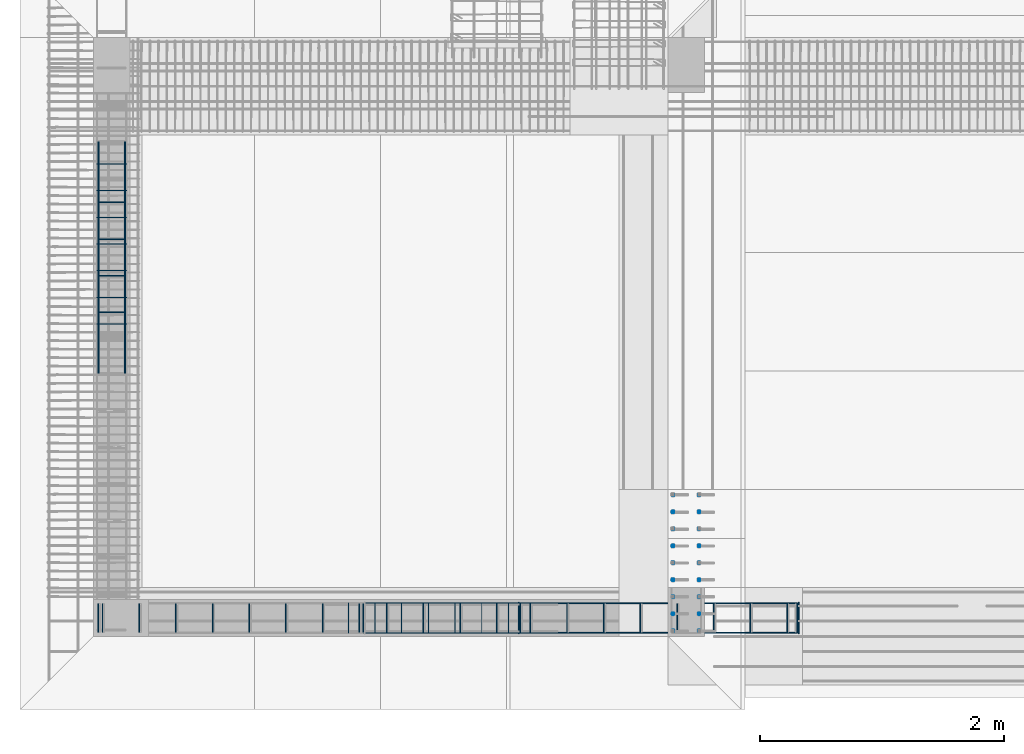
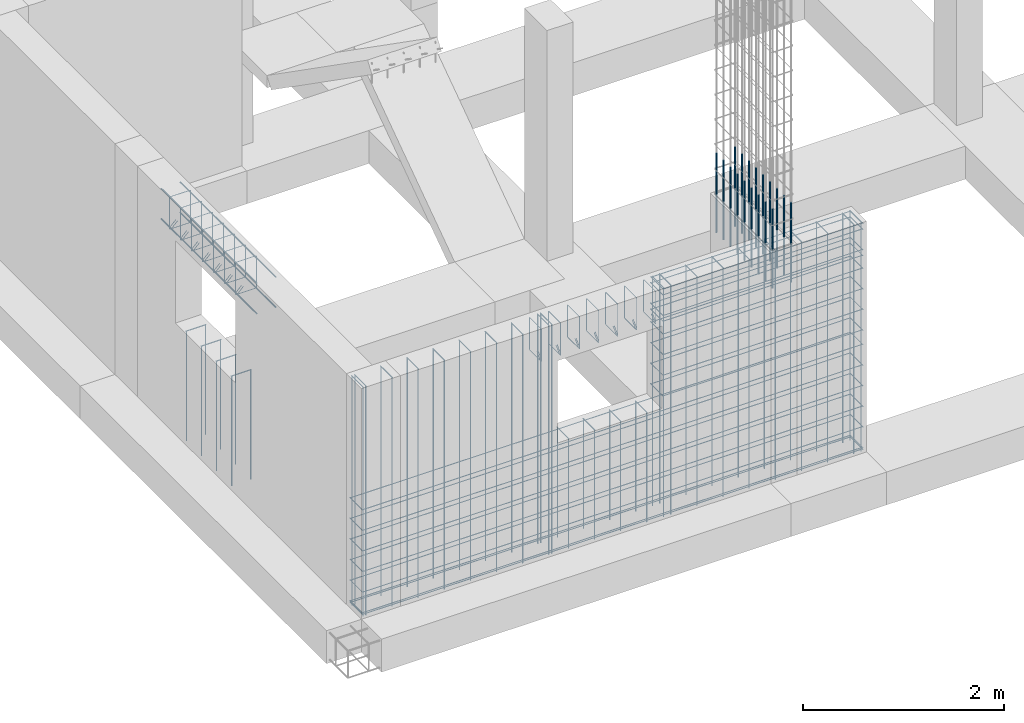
# One storey, part 3 of 15: 9 reinforcing bars.
"""IFC4 building model written with IfcOpenShell, lengths in metres."""

import ifcopenshell
import ifcopenshell.guid

model = None  # the IFC model being written
_history = None  # IfcOwnerHistory: only IFC2X3 demands one
_inside = {}  # id of a spatial element -> (the spatial element, [elements in it])
_under = {}  # id of a project, library or spatial element -> (it, [spatial elements below it])
_declared = {}  # id of a project -> (the project, [libraries it declares])
_typed = {}  # id of a type object -> (the type object, [elements of that type])
_made_of = {}  # id of a material, layer set ... -> (it, [elements and type objects made of it])


def new_model(schema):
    """Start an empty IFC model of exactly this schema.

    Asked for "IFC4X3", IfcOpenShell would pick the latest addendum, in which some entities
    have other attributes; the version numbers below select the first issue.
    IFC2X3 requires an IfcOwnerHistory on every rooted entity: one is made here for all.
    """
    global model, _history
    if schema == "IFC4X3":
        model = ifcopenshell.file(schema_version=(4, 3, 0, 0))
    else:
        model = ifcopenshell.file(schema=schema)
    _inside.clear()
    _under.clear()
    _declared.clear()
    _typed.clear()
    _made_of.clear()
    _history = None
    if model.schema == "IFC2X3":
        org = make("IfcOrganization", Name="unknown")
        user = make(
            "IfcPersonAndOrganization",
            ThePerson=make("IfcPerson", FamilyName="unknown"),
            TheOrganization=org,
        )
        app = make(
            "IfcApplication",
            ApplicationDeveloper=org,
            Version="unknown",
            ApplicationFullName="unknown",
            ApplicationIdentifier="unknown",
        )
        _history = make(
            "IfcOwnerHistory",
            OwningUser=user,
            OwningApplication=app,
            ChangeAction="ADDED",
            CreationDate=0,
        )
    return model


def make(cls, **values):
    """One entity of the class cls with the attributes given. An attribute that is None is left unset."""
    return model.create_entity(
        cls, **{name: value for name, value in values.items() if value is not None}
    )


def entity(cls, *values):
    """Any entity or typed value of the class cls, its attributes in the order of the schema. None: left unset."""
    e = model.create_entity(cls)
    for i, value in enumerate(values):
        if value is not None:
            e[i] = value
    return e


def rooted(cls, **values):
    """An entity with a GlobalId (a new one), such as an element, a storey or a relation."""
    return make(cls, GlobalId=ifcopenshell.guid.new(), OwnerHistory=_history, **values)


def si_unit(unit_type, name, prefix=None):
    """IfcSIUnit, for example si_unit("LENGTHUNIT", "METRE", prefix="MILLI")."""
    return make("IfcSIUnit", UnitType=unit_type, Prefix=prefix, Name=name)


def assignment(units):
    """IfcUnitAssignment: the units of a project."""
    return None if units is None else make("IfcUnitAssignment", Units=units)


def point(xyz):
    """IfcCartesianPoint."""
    return None if xyz is None else make("IfcCartesianPoint", Coordinates=xyz)


def direction(xyz):
    """IfcDirection."""
    return None if xyz is None else make("IfcDirection", DirectionRatios=xyz)


def frame(location, z_axis=None, x_axis=None):
    """IfcAxis2Placement3D, a coordinate frame: its origin and axes. An axis left out is left unset."""
    return make(
        "IfcAxis2Placement3D",
        Location=point(location),
        Axis=direction(z_axis),
        RefDirection=direction(x_axis),
    )


def origin_with_axes():
    """The frame at (0, 0, 0) with the z axis (0, 0, 1) and the x axis (1, 0, 0) written out."""
    return frame((0.0, 0.0, 0.0), z_axis=(0.0, 0.0, 1.0), x_axis=(1.0, 0.0, 0.0))


def place(relative_to, where):
    """IfcLocalPlacement: puts the frame where relative to a parent placement (None: the world)."""
    return make(
        "IfcLocalPlacement", PlacementRelTo=relative_to, RelativePlacement=where
    )


def context(
    kind, dimensions, precision=None, world=None, true_north=None, identifier=None
):
    """IfcGeometricRepresentationContext, for example the 3D "Model" context."""
    return make(
        "IfcGeometricRepresentationContext",
        ContextIdentifier=identifier,
        ContextType=kind,
        CoordinateSpaceDimension=dimensions,
        Precision=precision,
        WorldCoordinateSystem=world,
        TrueNorth=true_north,
    )


def project(units=None, contexts=None):
    """IfcProject with its units and contexts."""
    return rooted(
        "IfcProject",
        Name="project",
        RepresentationContexts=contexts,
        UnitsInContext=assignment(units),
    )


def spatial(cls, under=None, at=None, **own):
    """A site, building, storey or space (cls), placed at a placement, below another one or the project."""
    s = rooted(cls, ObjectPlacement=at, **own)
    if under is not None:
        _under.setdefault(under.id(), (under, []))[1].append(s)
    return s


def shape(context_of_items, identifier, shape_type, items):
    """IfcShapeRepresentation: the items that make up one representation, for example the "Body"."""
    return make(
        "IfcShapeRepresentation",
        ContextOfItems=context_of_items,
        RepresentationIdentifier=identifier,
        RepresentationType=shape_type,
        Items=items,
    )


def source(mapping_origin, context_of_items, identifier, shape_type, items):
    """IfcRepresentationMap: a shape defined once, which mapped items show again and again."""
    return make(
        "IfcRepresentationMap",
        MappingOrigin=mapping_origin,
        MappedRepresentation=shape(context_of_items, identifier, shape_type, items),
    )


def transform(
    local_origin,
    x_axis=None,
    y_axis=None,
    z_axis=None,
    scale=None,
    scale2=None,
    scale3=None,
    uniform=True,
):
    """IfcCartesianTransformationOperator3D, or its non-uniform kind. x_axis, y_axis, z_axis: its Axis1, 2, 3."""
    if uniform:
        return make(
            "IfcCartesianTransformationOperator3D",
            Axis1=direction(x_axis),
            Axis2=direction(y_axis),
            LocalOrigin=point(local_origin),
            Scale=scale,
            Axis3=direction(z_axis),
        )
    return make(
        "IfcCartesianTransformationOperator3DnonUniform",
        Axis1=direction(x_axis),
        Axis2=direction(y_axis),
        LocalOrigin=point(local_origin),
        Scale=scale,
        Axis3=direction(z_axis),
        Scale2=scale2,
        Scale3=scale3,
    )


def mapped(mapping_source, mapping_target):
    """IfcMappedItem: shows the shape of a source again, moved by a transform."""
    return make(
        "IfcMappedItem", MappingSource=mapping_source, MappingTarget=mapping_target
    )


def made_of(thing, what):
    """Note that an element or type object is made of a material, layer set ...; save() writes the relation."""
    if what is not None:
        _made_of.setdefault(what.id(), (what, []))[1].append(thing)
    return thing


def element(
    cls,
    number,
    at=None,
    inside=None,
    cuts=None,
    type_object=None,
    material=None,
    context=None,
    identifier="Body",
    shape_type=None,
    held_by="IfcProductDefinitionShape",
    body=None,
    shapes=None,
    **own,
):
    """One element of the class cls, such as IfcWall. Its Tag is "e" and its number.

    at: its placement. inside: the storey or other place that contains it. cuts: it is an
    opening in that element (IfcRelVoidsElement). A single representation is given by context,
    identifier, shape_type and body (its items); several are given by shapes. held_by: the class
    of the entity that holds the representations. save() writes the other relations.
    """
    e = rooted(cls, Tag="e%d" % number, ObjectPlacement=at, **own)
    if body is not None:
        shapes = [shape(context, identifier, shape_type, body)]
    if shapes is not None:
        e.Representation = make(held_by, Representations=shapes)
    if inside is not None:
        _inside.setdefault(inside.id(), (inside, []))[1].append(e)
    if cuts is not None:
        rooted(
            "IfcRelVoidsElement", RelatingBuildingElement=cuts, RelatedOpeningElement=e
        )
    if type_object is not None:
        _typed.setdefault(type_object.id(), (type_object, []))[1].append(e)
    return made_of(e, material)


def aggregate(whole, parts):
    """IfcRelAggregates: a whole, such as a stair, and the parts it consists of."""
    return rooted("IfcRelAggregates", RelatingObject=whole, RelatedObjects=parts)


def save(model, path):
    """Write the relations noted so far, then the file.

    IfcRelAggregates (storeys below a building ...), IfcRelContainedInSpatialStructure (elements
    in a storey), IfcRelDefinesByType, IfcRelAssociatesMaterial and IfcRelDeclares: one each for
    every whole, place, type object, material and project.
    """
    for whole, parts in _under.values():
        aggregate(whole, parts)
    for where, things in _inside.values():
        rooted(
            "IfcRelContainedInSpatialStructure",
            RelatedElements=things,
            RelatingStructure=where,
        )
    for kind, things in _typed.values():
        rooted("IfcRelDefinesByType", RelatedObjects=things, RelatingType=kind)
    for what, things in _made_of.values():
        rooted("IfcRelAssociatesMaterial", RelatedObjects=things, RelatingMaterial=what)
    for by, libraries in _declared.values():
        rooted("IfcRelDeclares", RelatingContext=by, RelatedDefinitions=libraries)
    model.write(path)


model = new_model("IFC4")

# Units and contexts
model_context = context("Model", 3, precision=1e-05, world=origin_with_axes())
ifc_project = project(units=[si_unit("LENGTHUNIT", "METRE"), si_unit("AREAUNIT", "SQUARE_METRE"), si_unit("VOLUMEUNIT", "CUBIC_METRE"), si_unit("MASSUNIT", "GRAM", prefix="KILO"), si_unit("TIMEUNIT", "SECOND"), si_unit("PLANEANGLEUNIT", "RADIAN"), si_unit("SOLIDANGLEUNIT", "STERADIAN"), si_unit("THERMODYNAMICTEMPERATUREUNIT", "DEGREE_CELSIUS")], contexts=[model_context])

# Site, building, storey
placement_1 = place(None, origin_with_axes())
site = spatial("IfcSite", under=ifc_project, at=placement_1, Name="Italia", CompositionType="ELEMENT")
building = spatial("IfcBuilding", under=site, at=placement_1, Name="Bifamiliare", CompositionType="ELEMENT")
storey = spatial("IfcBuildingStorey", under=building, at=placement_1, Name="Storey 0", CompositionType="ELEMENT", Elevation=0.0)

# Reinforcing bars
shared_shape_1 = source(origin_with_axes(), model_context, "Body", "AdvancedSweptSolid", [
    entity("IfcSweptDiskSolid", entity("IfcIndexedPolyCurve", entity("IfcCartesianPointList3D", [[6.057, 2.557, 2.33333], [6.057, 2.557, 3.3]]), [entity("IfcLineIndex", [1, 2])], False), 0.01),
])
placement_2 = place(placement_1, origin_with_axes())
reinforcing_bar_1_placement = place(placement_2, origin_with_axes())
element("IfcReinforcingBar", 1, at=reinforcing_bar_1_placement, inside=storey, BarLength=0.966667, CrossSectionArea=0.00031416, NominalDiameter=0.02, context=model_context, shape_type="MappedRepresentation", body=[
    mapped(shared_shape_1, transform((0.0, -1.114, 0.0), x_axis=(1.0, 0.0, 0.0), y_axis=(0.0, 1.0, 0.0), z_axis=(0.0, 0.0, 1.0), scale=1.0)),
    mapped(shared_shape_1, transform((0.0, -0.97325, 0.0), x_axis=(1.0, 0.0, 0.0), y_axis=(0.0, 1.0, 0.0), z_axis=(0.0, 0.0, 1.0), scale=1.0)),
    mapped(shared_shape_1, transform((0.0, -0.8345, 0.0), x_axis=(1.0, 0.0, 0.0), y_axis=(0.0, 1.0, 0.0), z_axis=(0.0, 0.0, 1.0), scale=1.0)),
    mapped(shared_shape_1, transform((0.0, -0.69575, 0.0), x_axis=(1.0, 0.0, 0.0), y_axis=(0.0, 1.0, 0.0), z_axis=(0.0, 0.0, 1.0), scale=1.0)),
    mapped(shared_shape_1, transform((0.0, -0.557, 0.0), x_axis=(1.0, 0.0, 0.0), y_axis=(0.0, 1.0, 0.0), z_axis=(0.0, 0.0, 1.0), scale=1.0)),
    mapped(shared_shape_1, transform((0.0, -0.41825, 0.0), x_axis=(1.0, 0.0, 0.0), y_axis=(0.0, 1.0, 0.0), z_axis=(0.0, 0.0, 1.0), scale=1.0)),
    mapped(shared_shape_1, transform((0.0, -0.2795, 0.0), x_axis=(1.0, 0.0, 0.0), y_axis=(0.0, 1.0, 0.0), z_axis=(0.0, 0.0, 1.0), scale=1.0)),
    mapped(shared_shape_1, transform((0.0, -0.14075, 0.0), x_axis=(1.0, 0.0, 0.0), y_axis=(0.0, 1.0, 0.0), z_axis=(0.0, 0.0, 1.0), scale=1.0)),
    mapped(shared_shape_1, transform((0.0, 0.0, 0.0), x_axis=(1.0, 0.0, 0.0), y_axis=(0.0, 1.0, 0.0), z_axis=(0.0, 0.0, 1.0), scale=1.0)),
    mapped(shared_shape_1, transform((-0.214, 0.0, 0.0), x_axis=(1.0, 0.0, 0.0), y_axis=(0.0, 1.0, 0.0), z_axis=(0.0, 0.0, 1.0), scale=1.0)),
    mapped(shared_shape_1, transform((-0.214, -0.14075, 0.0), x_axis=(1.0, 0.0, 0.0), y_axis=(0.0, 1.0, 0.0), z_axis=(0.0, 0.0, 1.0), scale=1.0)),
    mapped(shared_shape_1, transform((-0.214, -0.2795, 0.0), x_axis=(1.0, 0.0, 0.0), y_axis=(0.0, 1.0, 0.0), z_axis=(0.0, 0.0, 1.0), scale=1.0)),
    mapped(shared_shape_1, transform((-0.214, -0.41825, 0.0), x_axis=(1.0, 0.0, 0.0), y_axis=(0.0, 1.0, 0.0), z_axis=(0.0, 0.0, 1.0), scale=1.0)),
    mapped(shared_shape_1, transform((-0.214, -0.557, 0.0), x_axis=(1.0, 0.0, 0.0), y_axis=(0.0, 1.0, 0.0), z_axis=(0.0, 0.0, 1.0), scale=1.0)),
    mapped(shared_shape_1, transform((-0.214, -0.69575, 0.0), x_axis=(1.0, 0.0, 0.0), y_axis=(0.0, 1.0, 0.0), z_axis=(0.0, 0.0, 1.0), scale=1.0)),
    mapped(shared_shape_1, transform((-0.214, -0.8345, 0.0), x_axis=(1.0, 0.0, 0.0), y_axis=(0.0, 1.0, 0.0), z_axis=(0.0, 0.0, 1.0), scale=1.0)),
    mapped(shared_shape_1, transform((-0.214, -0.97325, 0.0), x_axis=(1.0, 0.0, 0.0), y_axis=(0.0, 1.0, 0.0), z_axis=(0.0, 0.0, 1.0), scale=1.0)),
    mapped(shared_shape_1, transform((-0.214, -1.114, 0.0), x_axis=(1.0, 0.0, 0.0), y_axis=(0.0, 1.0, 0.0), z_axis=(0.0, 0.0, 1.0), scale=1.0)),
])
shared_shape_2 = source(origin_with_axes(), model_context, "Body", "AdvancedSweptSolid", [
    entity("IfcSweptDiskSolid", entity("IfcIndexedPolyCurve", entity("IfcCartesianPointList3D", [[1.359, 4.05, 0.0], [1.359, 4.05, 1.331], [1.133, 4.05, 1.331]]), [entity("IfcLineIndex", [1, 2]), entity("IfcLineIndex", [2, 3])], False), 0.006),
])
reinforcing_bar_2_placement = place(placement_2, origin_with_axes())
element("IfcReinforcingBar", 2, at=reinforcing_bar_2_placement, inside=storey, BarLength=1.557, CrossSectionArea=0.0001131, NominalDiameter=0.012, context=model_context, shape_type="MappedRepresentation", body=[
    mapped(shared_shape_2, transform((2.5, 8.7, 0.0), x_axis=(-1.0, 0.0, 0.0), y_axis=(0.0, -1.0, 0.0), z_axis=(0.0, 0.0, 1.0), scale=1.0)),
    mapped(shared_shape_2, transform((0.0, 0.6, 0.0), x_axis=(1.0, 0.0, 0.0), y_axis=(0.0, 1.0, 0.0), z_axis=(0.0, 0.0, 1.0), scale=1.0)),
    mapped(shared_shape_2, transform((2.5, 9.0, 0.0), x_axis=(-1.0, 0.0, 0.0), y_axis=(0.0, -1.0, 0.0), z_axis=(0.0, 0.0, 1.0), scale=1.0)),
    mapped(shared_shape_2, transform((0.0, 0.9, 0.0), x_axis=(1.0, 0.0, 0.0), y_axis=(0.0, 1.0, 0.0), z_axis=(0.0, 0.0, 1.0), scale=1.0)),
    mapped(shared_shape_2, transform((2.5, 8.1, 0.0), x_axis=(-1.0, 0.0, 0.0), y_axis=(0.0, -1.0, 0.0), z_axis=(0.0, 0.0, 1.0), scale=1.0)),
    mapped(shared_shape_2, transform((0.0, 0.0, 0.0), x_axis=(1.0, 0.0, 0.0), y_axis=(0.0, 1.0, 0.0), z_axis=(0.0, 0.0, 1.0), scale=1.0)),
    mapped(shared_shape_2, transform((2.5, 8.4, 0.0), x_axis=(-1.0, 0.0, 0.0), y_axis=(0.0, -1.0, 0.0), z_axis=(0.0, 0.0, 1.0), scale=1.0)),
    mapped(shared_shape_2, transform((0.0, 0.3, 0.0), x_axis=(1.0, 0.0, 0.0), y_axis=(0.0, 1.0, 0.0), z_axis=(0.0, 0.0, 1.0), scale=1.0)),
])
shared_shape_3 = source(origin_with_axes(), model_context, "Body", "AdvancedSweptSolid", [
    entity("IfcSweptDiskSolid", entity("IfcIndexedPolyCurve", entity("IfcCartesianPointList3D", [[1.141, 3.55, 2.391], [1.141, 5.45, 2.391]]), [entity("IfcLineIndex", [1, 2])], False), 0.008),
])
reinforcing_bar_3_placement = place(placement_2, origin_with_axes())
element("IfcReinforcingBar", 3, at=reinforcing_bar_3_placement, inside=storey, BarLength=1.9, CrossSectionArea=0.00020106, NominalDiameter=0.016, context=model_context, shape_type="MappedRepresentation", body=[
    mapped(shared_shape_3, transform((0.0, 0.0, 0.368001), x_axis=(1.0, 0.0, 0.0), y_axis=(0.0, 1.0, 0.0), z_axis=(0.0, 0.0, 1.0), scale=1.0)),
    mapped(shared_shape_3, transform((0.0, 0.0, 0.0), x_axis=(1.0, 0.0, 0.0), y_axis=(0.0, 1.0, 0.0), z_axis=(0.0, 0.0, 1.0), scale=1.0)),
    mapped(shared_shape_3, transform((0.218, 0.0, 0.368001), x_axis=(1.0, 0.0, 0.0), y_axis=(0.0, 1.0, 0.0), z_axis=(0.0, 0.0, 1.0), scale=1.0)),
    mapped(shared_shape_3, transform((0.218, 0.0, 0.0), x_axis=(1.0, 0.0, 0.0), y_axis=(0.0, 1.0, 0.0), z_axis=(0.0, 0.0, 1.0), scale=1.0)),
])
shared_shape_4 = source(origin_with_axes(), model_context, "Body", "AdvancedSweptSolid", [
    entity("IfcSweptDiskSolid", entity("IfcIndexedPolyCurve", entity("IfcCartesianPointList3D", [[1.19971, 3.954, 2.47071], [1.13193, 3.954, 2.40293], [1.129, 3.954, 2.39586], [1.129, 3.954, 2.389], [1.12976, 3.954, 2.38517], [1.13193, 3.954, 2.38193], [1.13517, 3.954, 2.37976], [1.139, 3.954, 2.379], [1.361, 3.954, 2.379], [1.36483, 3.954, 2.37976], [1.36807, 3.954, 2.38193], [1.37024, 3.954, 2.38517], [1.371, 3.954, 2.389], [1.371, 3.954, 2.761], [1.37024, 3.954, 2.76483], [1.36807, 3.954, 2.76807], [1.36483, 3.954, 2.77024], [1.361, 3.954, 2.771], [1.139, 3.954, 2.771], [1.13517, 3.954, 2.77024], [1.13193, 3.954, 2.76807], [1.12976, 3.954, 2.76483], [1.129, 3.954, 2.761], [1.129, 3.954, 2.389], [1.12976, 3.954, 2.38517], [1.13193, 3.954, 2.38193], [1.13517, 3.954, 2.37976], [1.139, 3.954, 2.379], [1.14586, 3.954, 2.379], [1.15293, 3.954, 2.38193], [1.22071, 3.954, 2.44971]]), [entity("IfcLineIndex", [1, 2]), entity("IfcLineIndex", [2, 3]), entity("IfcLineIndex", [3, 4]), entity("IfcLineIndex", [4, 5]), entity("IfcLineIndex", [5, 6]), entity("IfcLineIndex", [6, 7]), entity("IfcLineIndex", [7, 8]), entity("IfcLineIndex", [8, 9]), entity("IfcLineIndex", [9, 10]), entity("IfcLineIndex", [10, 11]), entity("IfcLineIndex", [11, 12]), entity("IfcLineIndex", [12, 13]), entity("IfcLineIndex", [13, 14]), entity("IfcLineIndex", [14, 15]), entity("IfcLineIndex", [15, 16]), entity("IfcLineIndex", [16, 17]), entity("IfcLineIndex", [17, 18]), entity("IfcLineIndex", [18, 19]), entity("IfcLineIndex", [19, 20]), entity("IfcLineIndex", [20, 21]), entity("IfcLineIndex", [21, 22]), entity("IfcLineIndex", [22, 23]), entity("IfcLineIndex", [23, 24]), entity("IfcLineIndex", [24, 25]), entity("IfcLineIndex", [25, 26]), entity("IfcLineIndex", [26, 27]), entity("IfcLineIndex", [27, 28]), entity("IfcLineIndex", [28, 29]), entity("IfcLineIndex", [29, 30]), entity("IfcLineIndex", [30, 31])], False), 0.004),
])
reinforcing_bar_4_placement = place(placement_2, origin_with_axes())
element("IfcReinforcingBar", 4, at=reinforcing_bar_4_placement, inside=storey, BarLength=1.48678, CrossSectionArea=5.0265e-05, NominalDiameter=0.008, context=model_context, shape_type="MappedRepresentation", body=[
    mapped(shared_shape_4, transform((0.0, 0.0, 0.0), x_axis=(1.0, 0.0, 0.0), y_axis=(0.0, 1.0, 0.0), z_axis=(0.0, 0.0, 1.0), scale=1.0)),
    mapped(shared_shape_4, transform((0.0, 0.4368, 0.0), x_axis=(1.0, 0.0, 0.0), y_axis=(0.0, 1.0, 0.0), z_axis=(0.0, 0.0, 1.0), scale=1.0)),
    mapped(shared_shape_4, transform((0.0, 0.2184, 0.0), x_axis=(1.0, 0.0, 0.0), y_axis=(0.0, 1.0, 0.0), z_axis=(0.0, 0.0, 1.0), scale=1.0)),
    mapped(shared_shape_4, transform((0.0, 0.6552, 0.0), x_axis=(1.0, 0.0, 0.0), y_axis=(0.0, 1.0, 0.0), z_axis=(0.0, 0.0, 1.0), scale=1.0)),
    mapped(shared_shape_4, transform((0.0, 1.092, 0.0), x_axis=(1.0, 0.0, 0.0), y_axis=(0.0, 1.0, 0.0), z_axis=(0.0, 0.0, 1.0), scale=1.0)),
    mapped(shared_shape_4, transform((0.0, 0.8736, 0.0), x_axis=(1.0, 0.0, 0.0), y_axis=(0.0, 1.0, 0.0), z_axis=(0.0, 0.0, 1.0), scale=1.0)),
    mapped(shared_shape_4, transform((0.0, 1.3104, 0.0), x_axis=(1.0, 0.0, 0.0), y_axis=(0.0, 1.0, 0.0), z_axis=(0.0, 0.0, 1.0), scale=1.0)),
])
shared_shape_5 = source(origin_with_axes(), model_context, "Body", "AdvancedSweptSolid", [
    entity("IfcSweptDiskSolid", entity("IfcIndexedPolyCurve", entity("IfcCartesianPointList3D", [[6.859, 1.659, 0.0], [6.859, 1.659, 2.781], [6.859, 1.433, 2.781]]), [entity("IfcLineIndex", [1, 2]), entity("IfcLineIndex", [2, 3])], False), 0.006),
])
reinforcing_bar_5_placement = place(placement_2, origin_with_axes())
element("IfcReinforcingBar", 5, at=reinforcing_bar_5_placement, inside=storey, BarLength=3.007, CrossSectionArea=0.0001131, NominalDiameter=0.012, context=model_context, shape_type="MappedRepresentation", body=[
    mapped(shared_shape_5, transform((-4.184, 0.0, 0.0), x_axis=(1.0, 0.0, 0.0), y_axis=(0.0, 1.0, 0.0), z_axis=(0.0, 0.0, 1.0), scale=1.0)),
    mapped(shared_shape_5, transform((9.834, 3.1, 0.0), x_axis=(-1.0, 0.0, 0.0), y_axis=(0.0, -1.0, 0.0), z_axis=(0.0, 0.0, 1.0), scale=1.0)),
    mapped(shared_shape_5, transform((-4.484, 0.0, 0.0), x_axis=(1.0, 0.0, 0.0), y_axis=(0.0, 1.0, 0.0), z_axis=(0.0, 0.0, 1.0), scale=1.0)),
    mapped(shared_shape_5, transform((9.534, 3.1, 0.0), x_axis=(-1.0, 0.0, 0.0), y_axis=(0.0, -1.0, 0.0), z_axis=(0.0, 0.0, 1.0), scale=1.0)),
    mapped(shared_shape_5, transform((-3.55, 0.0, 0.0), x_axis=(1.0, 0.0, 0.0), y_axis=(0.0, 1.0, 0.0), z_axis=(0.0, 0.0, 1.0), scale=1.0)),
    mapped(shared_shape_5, transform((9.234, 3.1, 0.0), x_axis=(-1.0, 0.0, 0.0), y_axis=(0.0, -1.0, 0.0), z_axis=(0.0, 0.0, 1.0), scale=1.0)),
    mapped(shared_shape_5, transform((-3.584, 0.0, 0.0), x_axis=(1.0, 0.0, 0.0), y_axis=(0.0, 1.0, 0.0), z_axis=(0.0, 0.0, 1.0), scale=1.0)),
    mapped(shared_shape_5, transform((10.168, 3.1, 0.0), x_axis=(-1.0, 0.0, 0.0), y_axis=(0.0, -1.0, 0.0), z_axis=(0.0, 0.0, 1.0), scale=1.0)),
    mapped(shared_shape_5, transform((-3.884, 0.0, 0.0), x_axis=(1.0, 0.0, 0.0), y_axis=(0.0, 1.0, 0.0), z_axis=(0.0, 0.0, 1.0), scale=1.0)),
    mapped(shared_shape_5, transform((10.134, 3.1, 0.0), x_axis=(-1.0, 0.0, 0.0), y_axis=(0.0, -1.0, 0.0), z_axis=(0.0, 0.0, 1.0), scale=1.0)),
    mapped(shared_shape_5, transform((-5.684, 0.0, 0.0), x_axis=(1.0, 0.0, 0.0), y_axis=(0.0, 1.0, 0.0), z_axis=(0.0, 0.0, 1.0), scale=1.0)),
    mapped(shared_shape_5, transform((8.334, 3.1, 0.0), x_axis=(-1.0, 0.0, 0.0), y_axis=(0.0, -1.0, 0.0), z_axis=(0.0, 0.0, 1.0), scale=1.0)),
    mapped(shared_shape_5, transform((-5.718, 0.0, 0.0), x_axis=(1.0, 0.0, 0.0), y_axis=(0.0, 1.0, 0.0), z_axis=(0.0, 0.0, 1.0), scale=1.0)),
    mapped(shared_shape_5, transform((8.034, 3.1, 0.0), x_axis=(-1.0, 0.0, 0.0), y_axis=(0.0, -1.0, 0.0), z_axis=(0.0, 0.0, 1.0), scale=1.0)),
    mapped(shared_shape_5, transform((-4.784, 0.0, 0.0), x_axis=(1.0, 0.0, 0.0), y_axis=(0.0, 1.0, 0.0), z_axis=(0.0, 0.0, 1.0), scale=1.0)),
    mapped(shared_shape_5, transform((8.0, 3.1, 0.0), x_axis=(-1.0, 0.0, 0.0), y_axis=(0.0, -1.0, 0.0), z_axis=(0.0, 0.0, 1.0), scale=1.0)),
    mapped(shared_shape_5, transform((-5.084, 0.0, 0.0), x_axis=(1.0, 0.0, 0.0), y_axis=(0.0, 1.0, 0.0), z_axis=(0.0, 0.0, 1.0), scale=1.0)),
    mapped(shared_shape_5, transform((8.934, 3.1, 0.0), x_axis=(-1.0, 0.0, 0.0), y_axis=(0.0, -1.0, 0.0), z_axis=(0.0, 0.0, 1.0), scale=1.0)),
    mapped(shared_shape_5, transform((-5.384, 0.0, 0.0), x_axis=(1.0, 0.0, 0.0), y_axis=(0.0, 1.0, 0.0), z_axis=(0.0, 0.0, 1.0), scale=1.0)),
    mapped(shared_shape_5, transform((8.634, 3.1, 0.0), x_axis=(-1.0, 0.0, 0.0), y_axis=(0.0, -1.0, 0.0), z_axis=(0.0, 0.0, 1.0), scale=1.0)),
    mapped(shared_shape_5, transform((-0.684, 0.0, 0.0), x_axis=(1.0, 0.0, 0.0), y_axis=(0.0, 1.0, 0.0), z_axis=(0.0, 0.0, 1.0), scale=1.0)),
    mapped(shared_shape_5, transform((13.334, 3.1, 0.0), x_axis=(-1.0, 0.0, 0.0), y_axis=(0.0, -1.0, 0.0), z_axis=(0.0, 0.0, 1.0), scale=1.0)),
    mapped(shared_shape_5, transform((-0.983999, 0.0, 0.0), x_axis=(1.0, 0.0, 0.0), y_axis=(0.0, 1.0, 0.0), z_axis=(0.0, 0.0, 1.0), scale=1.0)),
    mapped(shared_shape_5, transform((13.034, 3.1, 0.0), x_axis=(-1.0, 0.0, 0.0), y_axis=(0.0, -1.0, 0.0), z_axis=(0.0, 0.0, 1.0), scale=1.0)),
    mapped(shared_shape_5, transform((0.0, 0.0, 0.0), x_axis=(1.0, 0.0, 0.0), y_axis=(0.0, 1.0, 0.0), z_axis=(0.0, 0.0, 1.0), scale=1.0)),
    mapped(shared_shape_5, transform((12.734, 3.1, 0.0), x_axis=(-1.0, 0.0, 0.0), y_axis=(0.0, -1.0, 0.0), z_axis=(0.0, 0.0, 1.0), scale=1.0)),
    mapped(shared_shape_5, transform((-0.0839996, 0.0, 0.0), x_axis=(1.0, 0.0, 0.0), y_axis=(0.0, 1.0, 0.0), z_axis=(0.0, 0.0, 1.0), scale=1.0)),
    mapped(shared_shape_5, transform((13.718, 3.1, 0.0), x_axis=(-1.0, 0.0, 0.0), y_axis=(0.0, -1.0, 0.0), z_axis=(0.0, 0.0, 1.0), scale=1.0)),
    mapped(shared_shape_5, transform((-0.384, 0.0, 0.0), x_axis=(1.0, 0.0, 0.0), y_axis=(0.0, 1.0, 0.0), z_axis=(0.0, 0.0, 1.0), scale=1.0)),
    mapped(shared_shape_5, transform((13.634, 3.1, 0.0), x_axis=(-1.0, 0.0, 0.0), y_axis=(0.0, -1.0, 0.0), z_axis=(0.0, 0.0, 1.0), scale=1.0)),
    mapped(shared_shape_5, transform((-2.184, 0.0, 0.0), x_axis=(1.0, 0.0, 0.0), y_axis=(0.0, 1.0, 0.0), z_axis=(0.0, 0.0, 1.0), scale=1.0)),
    mapped(shared_shape_5, transform((11.834, 3.1, 0.0), x_axis=(-1.0, 0.0, 0.0), y_axis=(0.0, -1.0, 0.0), z_axis=(0.0, 0.0, 1.0), scale=1.0)),
    mapped(shared_shape_5, transform((-2.268, 0.0, 0.0), x_axis=(1.0, 0.0, 0.0), y_axis=(0.0, 1.0, 0.0), z_axis=(0.0, 0.0, 1.0), scale=1.0)),
    mapped(shared_shape_5, transform((11.534, 3.1, 0.0), x_axis=(-1.0, 0.0, 0.0), y_axis=(0.0, -1.0, 0.0), z_axis=(0.0, 0.0, 1.0), scale=1.0)),
    mapped(shared_shape_5, transform((-1.284, 0.0, 0.0), x_axis=(1.0, 0.0, 0.0), y_axis=(0.0, 1.0, 0.0), z_axis=(0.0, 0.0, 1.0), scale=1.0)),
    mapped(shared_shape_5, transform((11.45, 3.1, 0.0), x_axis=(-1.0, 0.0, 0.0), y_axis=(0.0, -1.0, 0.0), z_axis=(0.0, 0.0, 1.0), scale=1.0)),
    mapped(shared_shape_5, transform((-1.584, 0.0, 0.0), x_axis=(1.0, 0.0, 0.0), y_axis=(0.0, 1.0, 0.0), z_axis=(0.0, 0.0, 1.0), scale=1.0)),
    mapped(shared_shape_5, transform((12.434, 3.1, 0.0), x_axis=(-1.0, 0.0, 0.0), y_axis=(0.0, -1.0, 0.0), z_axis=(0.0, 0.0, 1.0), scale=1.0)),
    mapped(shared_shape_5, transform((-1.884, 0.0, 0.0), x_axis=(1.0, 0.0, 0.0), y_axis=(0.0, 1.0, 0.0), z_axis=(0.0, 0.0, 1.0), scale=1.0)),
    mapped(shared_shape_5, transform((12.134, 3.1, 0.0), x_axis=(-1.0, 0.0, 0.0), y_axis=(0.0, -1.0, 0.0), z_axis=(0.0, 0.0, 1.0), scale=1.0)),
])
shared_shape_6 = source(origin_with_axes(), model_context, "Body", "AdvancedSweptSolid", [
    entity("IfcSweptDiskSolid", entity("IfcIndexedPolyCurve", entity("IfcCartesianPointList3D", [[4.4, 1.659, 0.0], [4.4, 1.659, 1.331], [4.4, 1.433, 1.331]]), [entity("IfcLineIndex", [1, 2]), entity("IfcLineIndex", [2, 3])], False), 0.006),
])
reinforcing_bar_6_placement = place(placement_2, origin_with_axes())
element("IfcReinforcingBar", 6, at=reinforcing_bar_6_placement, inside=storey, BarLength=1.557, CrossSectionArea=0.0001131, NominalDiameter=0.012, context=model_context, shape_type="MappedRepresentation", body=[
    mapped(shared_shape_6, transform((8.2, 3.1, 0.0), x_axis=(-1.0, 0.0, 0.0), y_axis=(0.0, -1.0, 0.0), z_axis=(0.0, 0.0, 1.0), scale=1.0)),
    mapped(shared_shape_6, transform((-0.6, 0.0, 0.0), x_axis=(1.0, 0.0, 0.0), y_axis=(0.0, 1.0, 0.0), z_axis=(0.0, 0.0, 1.0), scale=1.0)),
    mapped(shared_shape_6, transform((7.9, 3.1, 0.0), x_axis=(-1.0, 0.0, 0.0), y_axis=(0.0, -1.0, 0.0), z_axis=(0.0, 0.0, 1.0), scale=1.0)),
    mapped(shared_shape_6, transform((-0.9, 0.0, 0.0), x_axis=(1.0, 0.0, 0.0), y_axis=(0.0, 1.0, 0.0), z_axis=(0.0, 0.0, 1.0), scale=1.0)),
    mapped(shared_shape_6, transform((8.8, 3.1, 0.0), x_axis=(-1.0, 0.0, 0.0), y_axis=(0.0, -1.0, 0.0), z_axis=(0.0, 0.0, 1.0), scale=1.0)),
    mapped(shared_shape_6, transform((0.0, 0.0, 0.0), x_axis=(1.0, 0.0, 0.0), y_axis=(0.0, 1.0, 0.0), z_axis=(0.0, 0.0, 1.0), scale=1.0)),
    mapped(shared_shape_6, transform((8.5, 3.1, 0.0), x_axis=(-1.0, 0.0, 0.0), y_axis=(0.0, -1.0, 0.0), z_axis=(0.0, 0.0, 1.0), scale=1.0)),
    mapped(shared_shape_6, transform((-0.3, 0.0, 0.0), x_axis=(1.0, 0.0, 0.0), y_axis=(0.0, 1.0, 0.0), z_axis=(0.0, 0.0, 1.0), scale=1.0)),
])
shared_shape_7 = source(origin_with_axes(), model_context, "Body", "AdvancedSweptSolid", [
    entity("IfcSweptDiskSolid", entity("IfcIndexedPolyCurve", entity("IfcCartesianPointList3D", [[6.87, 1.68, 0.03], [6.87, 1.44, 0.03], [6.86924, 1.43617, 0.03], [6.86707, 1.43293, 0.03], [6.86383, 1.43076, 0.03], [6.86, 1.43, 0.03], [1.14, 1.43, 0.03], [1.13617, 1.43076, 0.03], [1.13293, 1.43293, 0.03], [1.13076, 1.43617, 0.03], [1.13, 1.44, 0.03], [1.13, 1.68, 0.03]]), [entity("IfcLineIndex", [1, 2]), entity("IfcLineIndex", [2, 3]), entity("IfcLineIndex", [3, 4]), entity("IfcLineIndex", [4, 5]), entity("IfcLineIndex", [5, 6]), entity("IfcLineIndex", [6, 7]), entity("IfcLineIndex", [7, 8]), entity("IfcLineIndex", [8, 9]), entity("IfcLineIndex", [9, 10]), entity("IfcLineIndex", [10, 11]), entity("IfcLineIndex", [11, 12])], False), 0.005),
])
reinforcing_bar_7_placement = place(placement_2, origin_with_axes())
element("IfcReinforcingBar", 7, at=reinforcing_bar_7_placement, inside=storey, BarLength=6.23121, CrossSectionArea=7.854e-05, NominalDiameter=0.01, context=model_context, shape_type="MappedRepresentation", body=[
    mapped(shared_shape_7, transform((0.0, 0.0, 0.77), x_axis=(1.0, 0.0, 0.0), y_axis=(0.0, 1.0, 0.0), z_axis=(0.0, 0.0, 1.0), scale=1.0)),
    mapped(shared_shape_7, transform((0.0, 0.0, 0.02), x_axis=(1.0, 0.0, 0.0), y_axis=(0.0, 1.0, 0.0), z_axis=(0.0, 0.0, 1.0), scale=1.0)),
    mapped(shared_shape_7, transform((0.0, 0.0, 0.0), x_axis=(1.0, 0.0, 0.0), y_axis=(0.0, 1.0, 0.0), z_axis=(0.0, 0.0, 1.0), scale=1.0)),
    mapped(shared_shape_7, transform((8.0, 3.1, 0.27), x_axis=(-1.0, 0.0, 0.0), y_axis=(0.0, -1.0, 0.0), z_axis=(0.0, 0.0, 1.0), scale=1.0)),
    mapped(shared_shape_7, transform((0.0, 0.0, 1.27), x_axis=(1.0, 0.0, 0.0), y_axis=(0.0, 1.0, 0.0), z_axis=(0.0, 0.0, 1.0), scale=1.0)),
    mapped(shared_shape_7, transform((0.0, 0.0, 0.27), x_axis=(1.0, 0.0, 0.0), y_axis=(0.0, 1.0, 0.0), z_axis=(0.0, 0.0, 1.0), scale=1.0)),
    mapped(shared_shape_7, transform((8.0, 3.1, 0.52), x_axis=(-1.0, 0.0, 0.0), y_axis=(0.0, -1.0, 0.0), z_axis=(0.0, 0.0, 1.0), scale=1.0)),
    mapped(shared_shape_7, transform((0.0, 0.0, 1.02), x_axis=(1.0, 0.0, 0.0), y_axis=(0.0, 1.0, 0.0), z_axis=(0.0, 0.0, 1.0), scale=1.0)),
    mapped(shared_shape_7, transform((8.0, 3.1, 0.0), x_axis=(-1.0, 0.0, 0.0), y_axis=(0.0, -1.0, 0.0), z_axis=(0.0, 0.0, 1.0), scale=1.0)),
    mapped(shared_shape_7, transform((8.0, 3.1, 0.02), x_axis=(-1.0, 0.0, 0.0), y_axis=(0.0, -1.0, 0.0), z_axis=(0.0, 0.0, 1.0), scale=1.0)),
    mapped(shared_shape_7, transform((0.0, 0.0, 0.52), x_axis=(1.0, 0.0, 0.0), y_axis=(0.0, 1.0, 0.0), z_axis=(0.0, 0.0, 1.0), scale=1.0)),
    mapped(shared_shape_7, transform((8.0, 3.1, 1.27), x_axis=(-1.0, 0.0, 0.0), y_axis=(0.0, -1.0, 0.0), z_axis=(0.0, 0.0, 1.0), scale=1.0)),
    mapped(shared_shape_7, transform((8.0, 3.1, 0.77), x_axis=(-1.0, 0.0, 0.0), y_axis=(0.0, -1.0, 0.0), z_axis=(0.0, 0.0, 1.0), scale=1.0)),
    mapped(shared_shape_7, transform((8.0, 3.1, 1.02), x_axis=(-1.0, 0.0, 0.0), y_axis=(0.0, -1.0, 0.0), z_axis=(0.0, 0.0, 1.0), scale=1.0)),
])
shared_shape_8 = source(origin_with_axes(), model_context, "Body", "AdvancedSweptSolid", [
    entity("IfcSweptDiskSolid", entity("IfcIndexedPolyCurve", entity("IfcCartesianPointList3D", [[6.87, 1.68, 1.475], [6.87, 1.44, 1.475], [6.86924, 1.43617, 1.475], [6.86707, 1.43293, 1.475], [6.86383, 1.43076, 1.475], [6.86, 1.43, 1.475], [4.59, 1.43, 1.475], [4.58617, 1.43076, 1.475], [4.58293, 1.43293, 1.475], [4.58076, 1.43617, 1.475], [4.58, 1.44, 1.475], [4.58, 1.68, 1.475]]), [entity("IfcLineIndex", [1, 2]), entity("IfcLineIndex", [2, 3]), entity("IfcLineIndex", [3, 4]), entity("IfcLineIndex", [4, 5]), entity("IfcLineIndex", [5, 6]), entity("IfcLineIndex", [6, 7]), entity("IfcLineIndex", [7, 8]), entity("IfcLineIndex", [8, 9]), entity("IfcLineIndex", [9, 10]), entity("IfcLineIndex", [10, 11]), entity("IfcLineIndex", [11, 12])], False), 0.005),
])
reinforcing_bar_8_placement = place(placement_2, origin_with_axes())
element("IfcReinforcingBar", 8, at=reinforcing_bar_8_placement, inside=storey, BarLength=2.78121, CrossSectionArea=7.854e-05, NominalDiameter=0.01, context=model_context, shape_type="MappedRepresentation", body=[
    mapped(shared_shape_8, transform((0.0, 0.0, 0.5), x_axis=(1.0, 0.0, 0.0), y_axis=(0.0, 1.0, 0.0), z_axis=(0.0, 0.0, 1.0), scale=1.0)),
    mapped(shared_shape_8, transform((0.0, 0.0, 0.75), x_axis=(1.0, 0.0, 0.0), y_axis=(0.0, 1.0, 0.0), z_axis=(0.0, 0.0, 1.0), scale=1.0)),
    mapped(shared_shape_8, transform((11.45, 3.1, 0.0), x_axis=(-1.0, 0.0, 0.0), y_axis=(0.0, -1.0, 0.0), z_axis=(0.0, 0.0, 1.0), scale=1.0)),
    mapped(shared_shape_8, transform((0.0, 0.0, 0.0), x_axis=(1.0, 0.0, 0.0), y_axis=(0.0, 1.0, 0.0), z_axis=(0.0, 0.0, 1.0), scale=1.0)),
    mapped(shared_shape_8, transform((11.45, 3.1, 0.25), x_axis=(-1.0, 0.0, 0.0), y_axis=(0.0, -1.0, 0.0), z_axis=(0.0, 0.0, 1.0), scale=1.0)),
    mapped(shared_shape_8, transform((0.0, 0.0, 0.25), x_axis=(1.0, 0.0, 0.0), y_axis=(0.0, 1.0, 0.0), z_axis=(0.0, 0.0, 1.0), scale=1.0)),
    mapped(shared_shape_8, transform((11.45, 3.1, 0.5), x_axis=(-1.0, 0.0, 0.0), y_axis=(0.0, -1.0, 0.0), z_axis=(0.0, 0.0, 1.0), scale=1.0)),
    mapped(shared_shape_8, transform((11.45, 3.1, 0.75), x_axis=(-1.0, 0.0, 0.0), y_axis=(0.0, -1.0, 0.0), z_axis=(0.0, 0.0, 1.0), scale=1.0)),
    mapped(shared_shape_8, transform((0.0, 0.0, 1.225), x_axis=(1.0, 0.0, 0.0), y_axis=(0.0, 1.0, 0.0), z_axis=(0.0, 0.0, 1.0), scale=1.0)),
    mapped(shared_shape_8, transform((0.0, 0.0, 1.295), x_axis=(1.0, 0.0, 0.0), y_axis=(0.0, 1.0, 0.0), z_axis=(0.0, 0.0, 1.0), scale=1.0)),
    mapped(shared_shape_8, transform((11.45, 3.1, 0.905), x_axis=(-1.0, 0.0, 0.0), y_axis=(0.0, -1.0, 0.0), z_axis=(0.0, 0.0, 1.0), scale=1.0)),
    mapped(shared_shape_8, transform((0.0, 0.0, 0.905), x_axis=(1.0, 0.0, 0.0), y_axis=(0.0, 1.0, 0.0), z_axis=(0.0, 0.0, 1.0), scale=1.0)),
    mapped(shared_shape_8, transform((11.45, 3.1, 0.975), x_axis=(-1.0, 0.0, 0.0), y_axis=(0.0, -1.0, 0.0), z_axis=(0.0, 0.0, 1.0), scale=1.0)),
    mapped(shared_shape_8, transform((0.0, 0.0, 0.975), x_axis=(1.0, 0.0, 0.0), y_axis=(0.0, 1.0, 0.0), z_axis=(0.0, 0.0, 1.0), scale=1.0)),
    mapped(shared_shape_8, transform((11.45, 3.1, 1.225), x_axis=(-1.0, 0.0, 0.0), y_axis=(0.0, -1.0, 0.0), z_axis=(0.0, 0.0, 1.0), scale=1.0)),
    mapped(shared_shape_8, transform((11.45, 3.1, 1.295), x_axis=(-1.0, 0.0, 0.0), y_axis=(0.0, -1.0, 0.0), z_axis=(0.0, 0.0, 1.0), scale=1.0)),
])
shared_shape_9 = source(origin_with_axes(), model_context, "Body", "AdvancedSweptSolid", [
    entity("IfcSweptDiskSolid", entity("IfcIndexedPolyCurve", entity("IfcCartesianPointList3D", [[4.496, 1.49971, 2.47071], [4.496, 1.43193, 2.40293], [4.496, 1.429, 2.39586], [4.496, 1.429, 2.389], [4.496, 1.42976, 2.38517], [4.496, 1.43193, 2.38193], [4.496, 1.43517, 2.37976], [4.496, 1.439, 2.379], [4.496, 1.661, 2.379], [4.496, 1.66483, 2.37976], [4.496, 1.66807, 2.38193], [4.496, 1.67024, 2.38517], [4.496, 1.671, 2.389], [4.496, 1.671, 2.761], [4.496, 1.67024, 2.76483], [4.496, 1.66807, 2.76807], [4.496, 1.66483, 2.77024], [4.496, 1.661, 2.771], [4.496, 1.439, 2.771], [4.496, 1.43517, 2.77024], [4.496, 1.43193, 2.76807], [4.496, 1.42976, 2.76483], [4.496, 1.429, 2.761], [4.496, 1.429, 2.389], [4.496, 1.42976, 2.38517], [4.496, 1.43193, 2.38193], [4.496, 1.43517, 2.37976], [4.496, 1.439, 2.379], [4.496, 1.44586, 2.379], [4.496, 1.45293, 2.38193], [4.496, 1.52071, 2.44971]]), [entity("IfcLineIndex", [1, 2]), entity("IfcLineIndex", [2, 3]), entity("IfcLineIndex", [3, 4]), entity("IfcLineIndex", [4, 5]), entity("IfcLineIndex", [5, 6]), entity("IfcLineIndex", [6, 7]), entity("IfcLineIndex", [7, 8]), entity("IfcLineIndex", [8, 9]), entity("IfcLineIndex", [9, 10]), entity("IfcLineIndex", [10, 11]), entity("IfcLineIndex", [11, 12]), entity("IfcLineIndex", [12, 13]), entity("IfcLineIndex", [13, 14]), entity("IfcLineIndex", [14, 15]), entity("IfcLineIndex", [15, 16]), entity("IfcLineIndex", [16, 17]), entity("IfcLineIndex", [17, 18]), entity("IfcLineIndex", [18, 19]), entity("IfcLineIndex", [19, 20]), entity("IfcLineIndex", [20, 21]), entity("IfcLineIndex", [21, 22]), entity("IfcLineIndex", [22, 23]), entity("IfcLineIndex", [23, 24]), entity("IfcLineIndex", [24, 25]), entity("IfcLineIndex", [25, 26]), entity("IfcLineIndex", [26, 27]), entity("IfcLineIndex", [27, 28]), entity("IfcLineIndex", [28, 29]), entity("IfcLineIndex", [29, 30]), entity("IfcLineIndex", [30, 31])], False), 0.004),
])
reinforcing_bar_9_placement = place(placement_2, origin_with_axes())
element("IfcReinforcingBar", 9, at=reinforcing_bar_9_placement, inside=storey, BarLength=1.48678, CrossSectionArea=5.0265e-05, NominalDiameter=0.008, context=model_context, shape_type="MappedRepresentation", body=[
    mapped(shared_shape_9, transform((0.0, 0.0, 0.0), x_axis=(1.0, 0.0, 0.0), y_axis=(0.0, 1.0, 0.0), z_axis=(0.0, 0.0, 1.0), scale=1.0)),
    mapped(shared_shape_9, transform((-0.4368, 0.0, 0.0), x_axis=(1.0, 0.0, 0.0), y_axis=(0.0, 1.0, 0.0), z_axis=(0.0, 0.0, 1.0), scale=1.0)),
    mapped(shared_shape_9, transform((-0.2184, 0.0, 0.0), x_axis=(1.0, 0.0, 0.0), y_axis=(0.0, 1.0, 0.0), z_axis=(0.0, 0.0, 1.0), scale=1.0)),
    mapped(shared_shape_9, transform((-0.6552, 0.0, 0.0), x_axis=(1.0, 0.0, 0.0), y_axis=(0.0, 1.0, 0.0), z_axis=(0.0, 0.0, 1.0), scale=1.0)),
    mapped(shared_shape_9, transform((-1.092, 0.0, 0.0), x_axis=(1.0, 0.0, 0.0), y_axis=(0.0, 1.0, 0.0), z_axis=(0.0, 0.0, 1.0), scale=1.0)),
    mapped(shared_shape_9, transform((-0.8736, 0.0, 0.0), x_axis=(1.0, 0.0, 0.0), y_axis=(0.0, 1.0, 0.0), z_axis=(0.0, 0.0, 1.0), scale=1.0)),
    mapped(shared_shape_9, transform((-1.3104, 0.0, 0.0), x_axis=(1.0, 0.0, 0.0), y_axis=(0.0, 1.0, 0.0), z_axis=(0.0, 0.0, 1.0), scale=1.0)),
])

save(model, "model.ifc")
